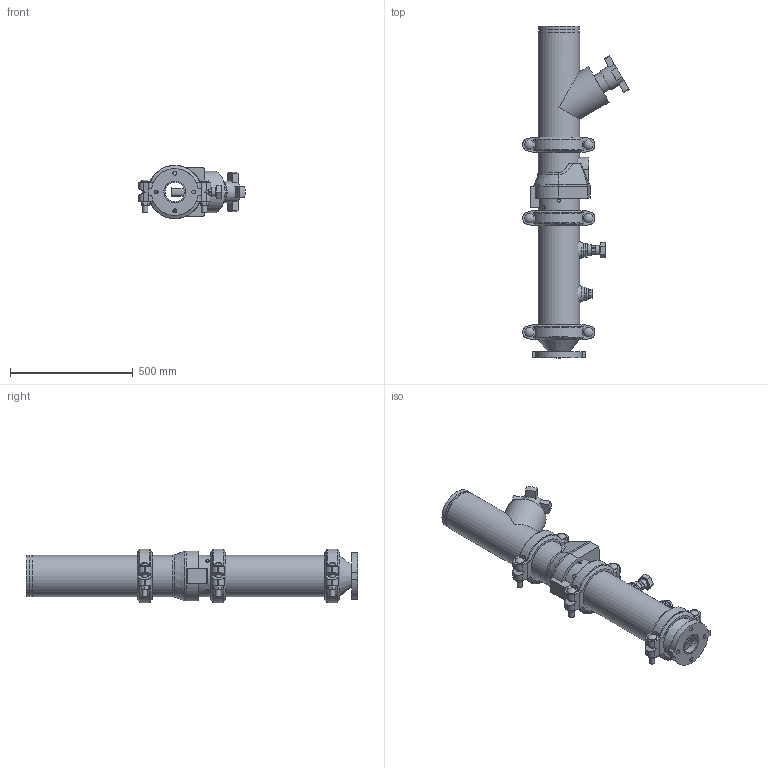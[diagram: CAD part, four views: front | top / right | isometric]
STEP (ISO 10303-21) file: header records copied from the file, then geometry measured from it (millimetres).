
FILE_DESCRIPTION(/* description */ ('VIC DVI PUMP DROP VERT S/383 (OGSxFLG) (S/924-1.25)','CAx-IF Rec.Pracs.---Representation and Presentation of Product Manufacturing Information (PMI)---4.0---2014-10-13'),/* implementation_level */ '2;1');
FILE_NAME(/* name */ 'C:\Users\Public\Documents\Victaulic.Temp\A849\Victaulic_IPS_Vertical DVI_CL 150_Series 383 (OGSxFLG)_924 (1.25)_06.0x03.0 (150x80).stp',/* time_stamp */ '2022-07-25T11:40:27+02:00',/* author */ ('Vjadhav'),/* organization */ ('Victaulic'),/* preprocessor_version */ 'ST-DEVELOPER v18',/* originating_system */ 'Autodesk Inventor 2020',/* authorisation */ '');
FILE_SCHEMA (('AP242_MANAGED_MODEL_BASED_3D_ENGINEERING_MIM_LF { 1 0 10303 442 1 1 4 }'));
Length unit declared in the file: inch
Products named in the file (9): 383_924 (1.25)-06.0x03.0; 741-03.0; 050-06.0x03.0; Pipe-06.0; 177N-06.0; 789-06.0; 779-06.0; 924-04.0x01.25; 923-04.0x0.75
Assembly tree (10 placements, depth 2):
  383_924 (1.25)-06.0x03.0
    741-03.0
    050-06.0x03.0
    177N-06.0  x3
    Pipe-06.0
    789-06.0
    779-06.0
    924-04.0x01.25
    923-04.0x0.75
Bounding box: 432.05 x 1349.5 x 219.2 mm (x, y, z)
Volume: 14186690.4 mm3; surface area: 2160255.6 mm2
Topology: 10 solids, 11 shells, 544 faces, 1433 edges, 963 vertices
Faces by surface type: plane 321, cylinder 178, cone 19, torus 18, sphere 6, bspline 2
Full cylindrical faces by diameter (mm): 13.716 x4, 15.875 x4, 21.209 x6, 21.336 x1, 26.67 x2, 37.694 x6, 38.608 x1, 42.164 x1, 45.974 x4, 48.514 x1, 55.626 x2, 77.927 x1, 79.375 x1, 84.938 x1, 88.9 x4, 154.051 x4, 155.575 x3, 163.957 x7, 168.275 x19
Entity records: 12374 total; most frequent: CARTESIAN_POINT 2530, DIRECTION 2023, ORIENTED_EDGE 1846, EDGE_CURVE 923, AXIS2_PLACEMENT_3D 768, VERTEX_POINT 627, LINE 487, VECTOR 487
